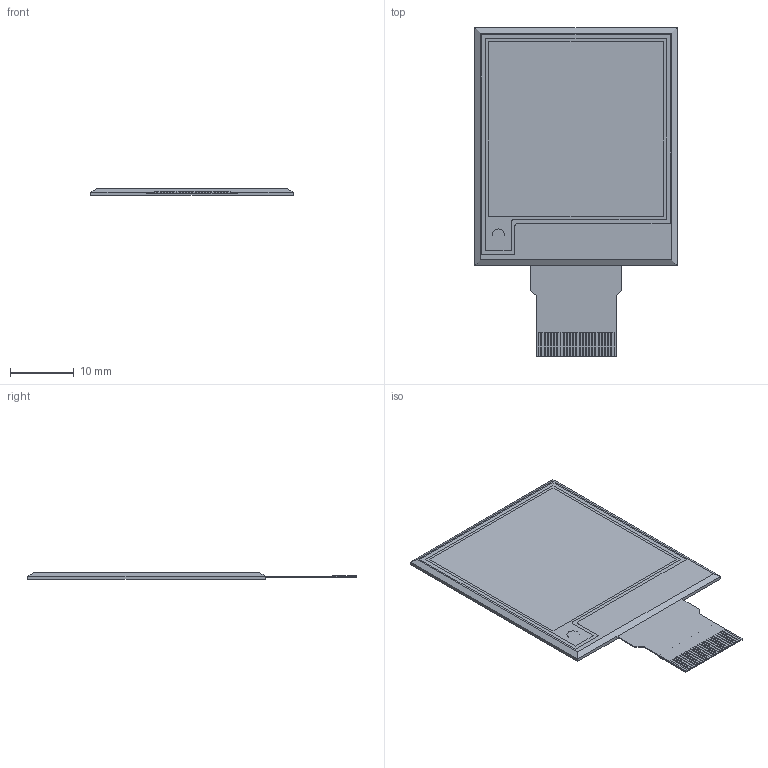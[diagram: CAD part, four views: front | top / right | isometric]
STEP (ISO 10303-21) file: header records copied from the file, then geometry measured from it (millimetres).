
FILE_DESCRIPTION (( 'STEP AP214' ), '1' );
FILE_NAME ('CFAP152152C0-0154.STEP', '2020-12-30T22:55:43', ( '' ), ( '' ), 'SwSTEP 2.0', 'SolidWorks 2020', '' );
FILE_SCHEMA (( 'AUTOMOTIVE_DESIGN' ));
Length unit declared in the file: millimetre
Products named in the file (1): CFAP152152C0-0154
Bounding box: 31.8 x 51.62 x 0.98 mm (x, y, z)
Volume: 1173.8 mm3; surface area: 2994.1 mm2
Topology: 2 solids, 2 shells, 127 faces, 369 edges, 250 vertices
Faces by surface type: plane 125, cylinder 2
Entity records: 5444 total; most frequent: CARTESIAN_POINT 747, ORIENTED_EDGE 738, DIRECTION 631, EDGE_CURVE 369, VECTOR 363, LINE 363, VERTEX_POINT 250, AXIS2_PLACEMENT_3D 134
